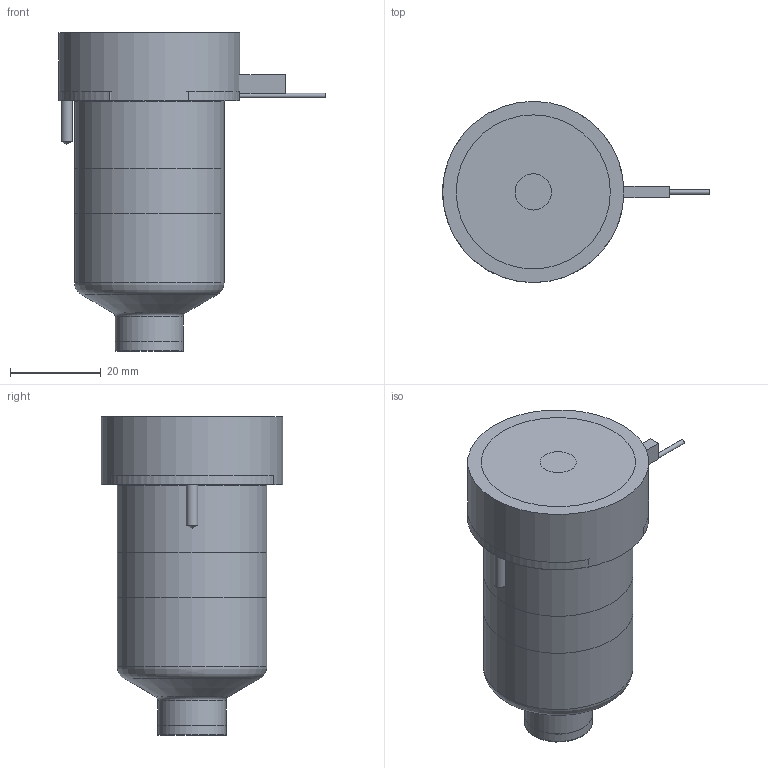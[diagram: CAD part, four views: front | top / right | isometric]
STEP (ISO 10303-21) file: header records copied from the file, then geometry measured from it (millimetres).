
FILE_DESCRIPTION(/* description */ (''),/* implementation_level */ '2;1');
FILE_NAME(/* name */ 'BXTBN-BXIBN-BXOBN19055_200C_b',/* time_stamp */ '2007-01-18T09:57:57+13:00',/* author */ (''),/* organization */ (''),/* preprocessor_version */ 'ST-DEVELOPER v9',/* originating_system */ 'UGS - NX 4.0',/* authorisation */ '');
FILE_SCHEMA (('CONFIG_CONTROL_DESIGN'));
Length unit declared in the file: millimetre
Products named in the file (1): BXTBN-BXIBN-BXOBN19055_200C_b
Bounding box: 58.85 x 40 x 70.35 mm (x, y, z)
Volume: 113470 mm3; surface area: 21632 mm2
Topology: 6 solids, 6 shells, 74 faces, 147 edges, 95 vertices
Faces by surface type: plane 35, cylinder 23, cone 8, torus 7, bspline 1
Full cylindrical faces by diameter (mm): 1 x3, 1.2 x1, 2.5 x2, 8 x1, 14.61 x1, 15.01 x2, 18.3 x1, 28.6 x1, 33 x2, 40 x1
Entity records: 1860 total; most frequent: CARTESIAN_POINT 376, DIRECTION 310, ORIENTED_EDGE 220, AXIS2_PLACEMENT_3D 136, EDGE_LOOP 112, EDGE_CURVE 110, VERTEX_POINT 87, ADVANCED_FACE 74
